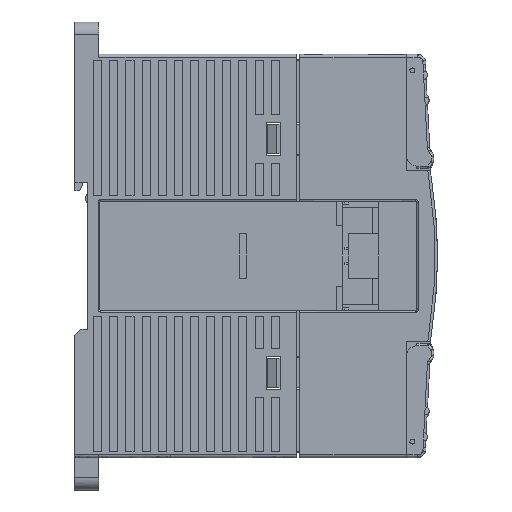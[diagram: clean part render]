
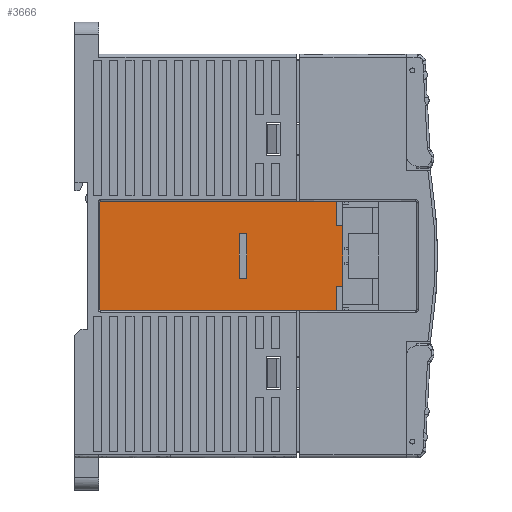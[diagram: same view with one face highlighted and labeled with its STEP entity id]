
A CAD part, left-side view. The second image highlights one B-rep face of the part: STEP entity #3666.
In plain terms, the highlighted planar face has unit normal (-1, 0, 0).
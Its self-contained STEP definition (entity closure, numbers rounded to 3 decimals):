
#3666=ADVANCED_FACE('',(#18249,#18251),#18253,.T.);
#18249=FACE_BOUND('',#18250,.T.);
#18250=EDGE_LOOP('',(#41093,#41094,#41095,#41096,#41097,#41098,#41099,#41100,#41101,
#41102));
#18251=FACE_BOUND('',#18252,.T.);
#18252=EDGE_LOOP('',(#41103,#41104,#41105,#41106));
#18253=PLANE('',#18254);
#18254=AXIS2_PLACEMENT_3D('',#18255,#18256,#18257);
#18255=CARTESIAN_POINT('',(-30.883,52.245,-18.371));
#18256=DIRECTION('',(-1.,0.,0.));
#18257=DIRECTION('',(0.,0.,1.));
#41093=ORIENTED_EDGE('',*,*,#49766,.T.);
#41094=ORIENTED_EDGE('',*,*,#49767,.T.);
#41095=ORIENTED_EDGE('',*,*,#49768,.T.);
#41096=ORIENTED_EDGE('',*,*,#49769,.T.);
#41097=ORIENTED_EDGE('',*,*,#49770,.T.);
#41098=ORIENTED_EDGE('',*,*,#49771,.T.);
#41099=ORIENTED_EDGE('',*,*,#49772,.T.);
#41100=ORIENTED_EDGE('',*,*,#49773,.T.);
#41101=ORIENTED_EDGE('',*,*,#49774,.T.);
#41102=ORIENTED_EDGE('',*,*,#49775,.T.);
#41103=ORIENTED_EDGE('',*,*,#49776,.T.);
#41104=ORIENTED_EDGE('',*,*,#49405,.F.);
#41105=ORIENTED_EDGE('',*,*,#49777,.T.);
#41106=ORIENTED_EDGE('',*,*,#49778,.T.);
#49405=EDGE_CURVE('',#56355,#56356,#56357,.T.);
#49766=EDGE_CURVE('',#56985,#56986,#56987,.T.);
#49767=EDGE_CURVE('',#56986,#56988,#56989,.T.);
#49768=EDGE_CURVE('',#56988,#56990,#56991,.T.);
#49769=EDGE_CURVE('',#56990,#56992,#56993,.T.);
#49770=EDGE_CURVE('',#56992,#56994,#56995,.T.);
#49771=EDGE_CURVE('',#56994,#56996,#56997,.T.);
#49772=EDGE_CURVE('',#56996,#56998,#56999,.T.);
#49773=EDGE_CURVE('',#56998,#57000,#57001,.T.);
#49774=EDGE_CURVE('',#57000,#57002,#57003,.T.);
#49775=EDGE_CURVE('',#57002,#56985,#57004,.T.);
#49776=EDGE_CURVE('',#57005,#56356,#57006,.T.);
#49777=EDGE_CURVE('',#56355,#57007,#57008,.T.);
#49778=EDGE_CURVE('',#57007,#57005,#57009,.T.);
#56355=VERTEX_POINT('',#66261);
#56356=VERTEX_POINT('',#66262);
#56357=LINE('',#66263,#66264);
#56985=VERTEX_POINT('',#67898);
#56986=VERTEX_POINT('',#67899);
#56987=LINE('',#67900,#67901);
#56988=VERTEX_POINT('',#67903);
#56989=(BOUNDED_CURVE()B_SPLINE_CURVE(2,
(#67904,#67905,#67906),
.UNSPECIFIED.,.F.,.F.)B_SPLINE_CURVE_WITH_KNOTS((3,3),
(0.,1.),
.UNSPECIFIED.)CURVE()GEOMETRIC_REPRESENTATION_ITEM()RATIONAL_B_SPLINE_CURVE((1.,
0.707,1.))REPRESENTATION_ITEM(''));
#56990=VERTEX_POINT('',#67907);
#56991=LINE('',#67908,#67909);
#56992=VERTEX_POINT('',#67911);
#56993=LINE('',#67912,#67913);
#56994=VERTEX_POINT('',#67915);
#56995=LINE('',#67916,#67917);
#56996=VERTEX_POINT('',#67919);
#56997=LINE('',#67920,#67921);
#56998=VERTEX_POINT('',#67923);
#56999=LINE('',#67924,#67925);
#57000=VERTEX_POINT('',#67927);
#57001=LINE('',#67928,#67929);
#57002=VERTEX_POINT('',#67931);
#57003=LINE('',#67932,#67933);
#57004=(BOUNDED_CURVE()B_SPLINE_CURVE(2,
(#67935,#67936,#67937),
.UNSPECIFIED.,.F.,.F.)B_SPLINE_CURVE_WITH_KNOTS((3,3),
(0.,1.),
.UNSPECIFIED.)CURVE()GEOMETRIC_REPRESENTATION_ITEM()RATIONAL_B_SPLINE_CURVE((1.,
0.707,1.))REPRESENTATION_ITEM(''));
#57005=VERTEX_POINT('',#67938);
#57006=LINE('',#67939,#67940);
#57007=VERTEX_POINT('',#67942);
#57008=LINE('',#67943,#67944);
#57009=LINE('',#67946,#67947);
#66261=CARTESIAN_POINT('',(-30.883,11.607,-7.662));
#66262=CARTESIAN_POINT('',(-30.883,9.807,-7.662));
#66263=CARTESIAN_POINT('',(-30.883,11.607,-7.662));
#66264=VECTOR('',#66265,1.);
#66265=DIRECTION('',(0.,-1.,0.));
#67898=CARTESIAN_POINT('',(-30.883,46.212,11.141));
#67899=CARTESIAN_POINT('',(-30.883,46.212,-15.459));
#67900=CARTESIAN_POINT('',(-30.883,46.212,11.141));
#67901=VECTOR('',#67902,1.);
#67902=DIRECTION('',(0.,0.,-1.));
#67903=CARTESIAN_POINT('',(-30.883,46.012,-15.658));
#67904=CARTESIAN_POINT('',(-30.883,46.212,-15.459));
#67905=CARTESIAN_POINT('',(-30.883,46.212,-15.659));
#67906=CARTESIAN_POINT('',(-30.883,46.012,-15.659));
#67907=CARTESIAN_POINT('',(-30.883,-12.393,-15.658));
#67908=CARTESIAN_POINT('',(-30.883,46.012,-15.658));
#67909=VECTOR('',#67910,1.);
#67910=DIRECTION('',(0.,-1.,0.));
#67911=CARTESIAN_POINT('',(-30.883,-12.393,-9.659));
#67912=CARTESIAN_POINT('',(-30.883,-12.393,-15.658));
#67913=VECTOR('',#67914,1.);
#67914=DIRECTION('',(0.,0.,1.));
#67915=CARTESIAN_POINT('',(-30.883,-13.993,-9.659));
#67916=CARTESIAN_POINT('',(-30.883,-12.393,-9.659));
#67917=VECTOR('',#67918,1.);
#67918=DIRECTION('',(0.,-1.,0.));
#67919=CARTESIAN_POINT('',(-30.883,-13.993,5.341));
#67920=CARTESIAN_POINT('',(-30.883,-13.993,-9.659));
#67921=VECTOR('',#67922,1.);
#67922=DIRECTION('',(0.,0.,1.));
#67923=CARTESIAN_POINT('',(-30.883,-12.393,5.341));
#67924=CARTESIAN_POINT('',(-30.883,-13.993,5.341));
#67925=VECTOR('',#67926,1.);
#67926=DIRECTION('',(0.,1.,0.));
#67927=CARTESIAN_POINT('',(-30.883,-12.393,11.341));
#67928=CARTESIAN_POINT('',(-30.883,-12.393,5.341));
#67929=VECTOR('',#67930,1.);
#67930=DIRECTION('',(0.,0.,1.));
#67931=CARTESIAN_POINT('',(-30.883,46.012,11.341));
#67932=CARTESIAN_POINT('',(-30.883,-12.393,11.341));
#67933=VECTOR('',#67934,1.);
#67934=DIRECTION('',(0.,1.,0.));
#67935=CARTESIAN_POINT('',(-30.883,46.012,11.341));
#67936=CARTESIAN_POINT('',(-30.883,46.212,11.341));
#67937=CARTESIAN_POINT('',(-30.883,46.212,11.141));
#67938=CARTESIAN_POINT('',(-30.883,9.807,3.338));
#67939=CARTESIAN_POINT('',(-30.883,9.807,3.338));
#67940=VECTOR('',#67941,1.);
#67941=DIRECTION('',(0.,0.,-1.));
#67942=CARTESIAN_POINT('',(-30.883,11.607,3.338));
#67943=CARTESIAN_POINT('',(-30.883,11.607,-7.662));
#67944=VECTOR('',#67945,1.);
#67945=DIRECTION('',(0.,0.,1.));
#67946=CARTESIAN_POINT('',(-30.883,11.607,3.338));
#67947=VECTOR('',#67948,1.);
#67948=DIRECTION('',(0.,-1.,0.));
